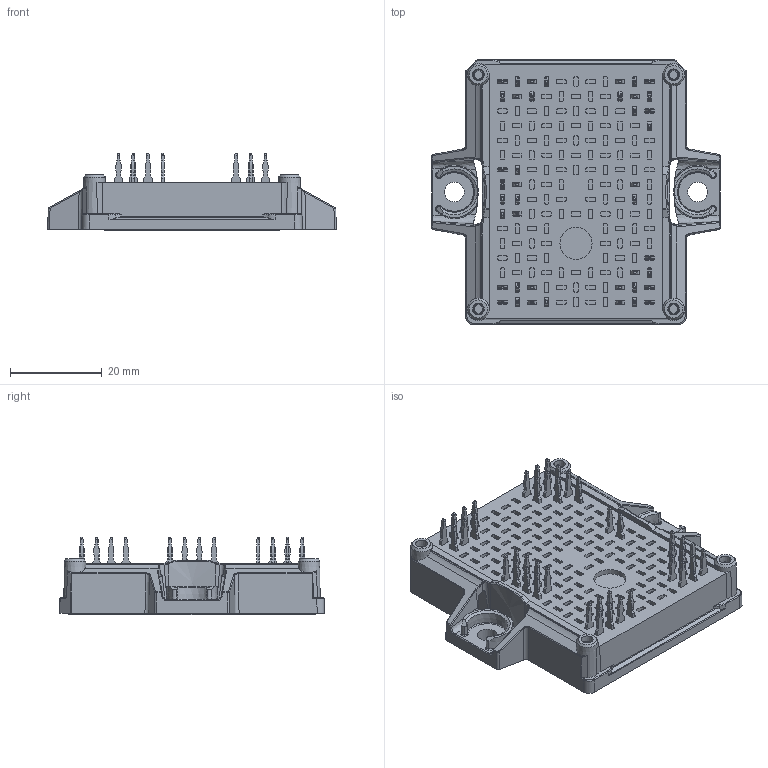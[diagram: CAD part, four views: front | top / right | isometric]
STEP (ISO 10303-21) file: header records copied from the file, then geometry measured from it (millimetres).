
FILE_DESCRIPTION(/* description */ ('Unknown'),/* implementation_level */ '2;1');
FILE_NAME(/* name */ 'FlowE2-4T12TA-PR30(420)-02-OL',/* time_stamp */ '2026-03-26T14:38:36+01:00',/* author */ ('Unknown'),/* organization */ ('Unknown'),/* preprocessor_version */ 'ST-DEVELOPER v20',/* originating_system */ 'Solid Edge',/* authorisation */ 'Unknown');
FILE_SCHEMA (('AUTOMOTIVE_DESIGN {1 0 10303 214 3 1 1}'));
Products named in the file (1): FlowE2-4T12TA-PR30-OL
Bounding box: 62.8 x 57.68 x 16.79 mm (x, y, z)
Volume: 26556.2 mm3; surface area: 12898.9 mm2
Topology: 1 solids, 1 shells, 4402 faces, 11038 edges, 6841 vertices
Faces by surface type: plane 2281, cylinder 1263, cone 710, bspline 102, torus 28, sphere 18
Full cylindrical faces by diameter (mm): 4.3 x2, 7 x1
Entity records: 161758 total; most frequent: CARTESIAN_POINT 24296, DIRECTION 22792, ORIENTED_EDGE 21972, EDGE_CURVE 10986, AXIS2_PLACEMENT_3D 7731, LINE 7330, VECTOR 7330, VERTEX_POINT 6828
